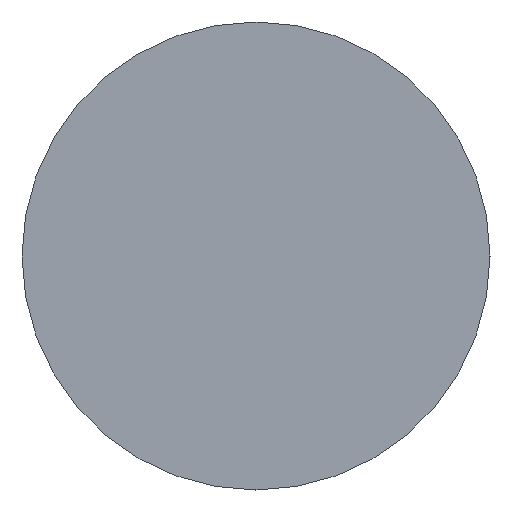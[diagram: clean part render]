
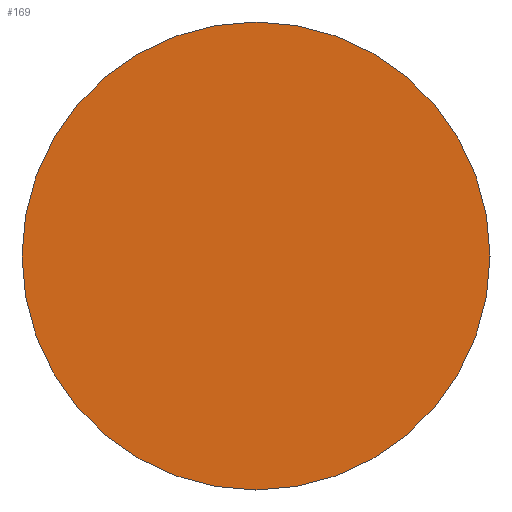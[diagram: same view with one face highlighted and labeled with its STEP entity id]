
A CAD part, left-side view. The second image highlights one B-rep face of the part: STEP entity #169.
In plain terms, the highlighted planar face has unit normal (-1, 0, 0).
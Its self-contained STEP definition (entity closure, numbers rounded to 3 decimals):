
#9 = PLANE ( 'NONE',  #343 ) ;
#13 = CARTESIAN_POINT ( 'NONE',  ( -73., 0., -5. ) ) ;
#14 = ORIENTED_EDGE ( 'NONE', *, *, #299, .T. ) ;
#40 = DIRECTION ( 'NONE',  ( 1., 0., 0. ) ) ;
#46 = VERTEX_POINT ( 'NONE', #113 ) ;
#81 = ORIENTED_EDGE ( 'NONE', *, *, #262, .T. ) ;
#113 = CARTESIAN_POINT ( 'NONE',  ( -73., 0., 5. ) ) ;
#132 = CIRCLE ( 'NONE', #240, 5. ) ;
#140 = CARTESIAN_POINT ( 'NONE',  ( -73., 0., 0. ) ) ;
#145 = DIRECTION ( 'NONE',  ( 0., 0., 1. ) ) ;
#164 = DIRECTION ( 'NONE',  ( -1., 0., 0. ) ) ;
#167 = FACE_OUTER_BOUND ( 'NONE', #290, .T. ) ;
#169 = ADVANCED_FACE ( 'NONE', ( #167 ), #9, .F. ) ;
#199 = DIRECTION ( 'NONE',  ( 0., 0., 1. ) ) ;
#219 = CARTESIAN_POINT ( 'NONE',  ( -73., 0., 0. ) ) ;
#240 = AXIS2_PLACEMENT_3D ( 'NONE', #140, #309, #145 ) ;
#262 = EDGE_CURVE ( 'NONE', #46, #306, #334, .T. ) ;
#267 = DIRECTION ( 'NONE',  ( 0., 0., -1. ) ) ;
#272 = CARTESIAN_POINT ( 'NONE',  ( -73., 5., 0. ) ) ;
#290 = EDGE_LOOP ( 'NONE', ( #81, #14 ) ) ;
#299 = EDGE_CURVE ( 'NONE', #306, #46, #132, .T. ) ;
#306 = VERTEX_POINT ( 'NONE', #13 ) ;
#309 = DIRECTION ( 'NONE',  ( -1., 0., 0. ) ) ;
#323 = AXIS2_PLACEMENT_3D ( 'NONE', #219, #164, #199 ) ;
#334 = CIRCLE ( 'NONE', #323, 5. ) ;
#343 = AXIS2_PLACEMENT_3D ( 'NONE', #272, #40, #267 ) ;
